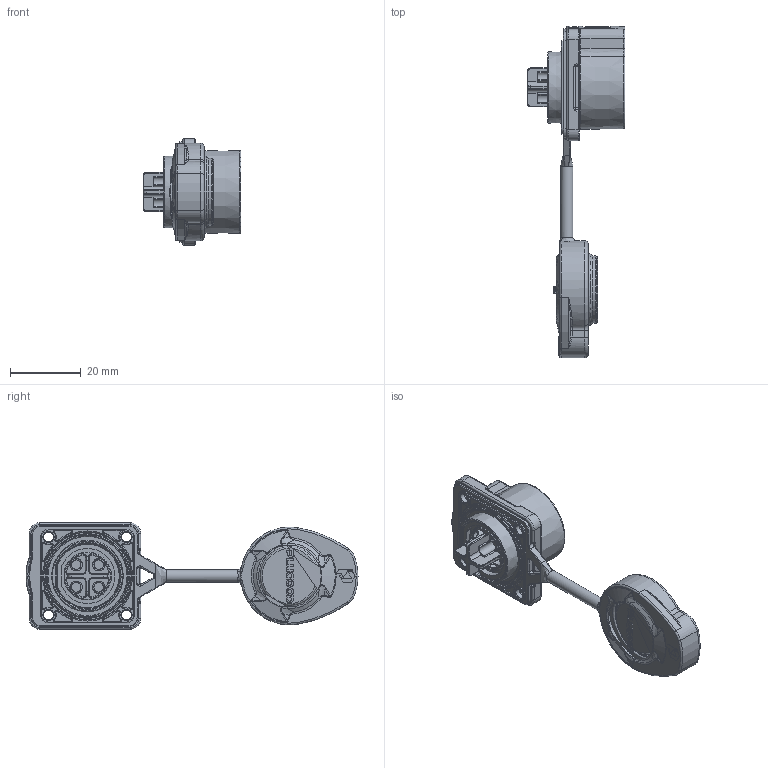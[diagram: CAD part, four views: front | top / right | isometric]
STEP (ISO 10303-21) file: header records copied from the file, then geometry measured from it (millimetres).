
FILE_DESCRIPTION (( 'STEP AP203' ), '1' );
FILE_NAME ('PLG20 4郋侐謂脣釱.STEP', '2025-03-19T12:22:50', ( '' ), ( '' ), 'SwSTEP 2.0', 'SolidWorks 2024', '' );
FILE_SCHEMA (( 'CONFIG_CONTROL_DESIGN' ));
Length unit declared in the file: millimetre
Products named in the file (1): PLG20 4芯四孔插座
Bounding box: 27.6 x 93.64 x 30 mm (x, y, z)
Volume: 12232 mm3; surface area: 12065.2 mm2
Topology: 1 solids, 9 shells, 1453 faces, 3595 edges, 2205 vertices
Faces by surface type: cylinder 434, plane 418, torus 265, bspline 250, cone 74, sphere 12
Full cylindrical faces by diameter (mm): 1.061 x1, 2.088 x1, 2.7 x4, 2.75 x4, 2.8 x4, 3.3 x4, 3.5 x5, 4 x4, 4.15 x4, 6 x4, 16.5 x1, 19.1 x1, 19.5 x3, 22.3 x1, 23.5 x1, 25 x1
Entity records: 49304 total; most frequent: CARTESIAN_POINT 17075, ORIENTED_EDGE 6926, DIRECTION 6374, EDGE_CURVE 3463, AXIS2_PLACEMENT_3D 2536, VERTEX_POINT 2173, EDGE_LOOP 1614, FACE_OUTER_BOUND 1516
